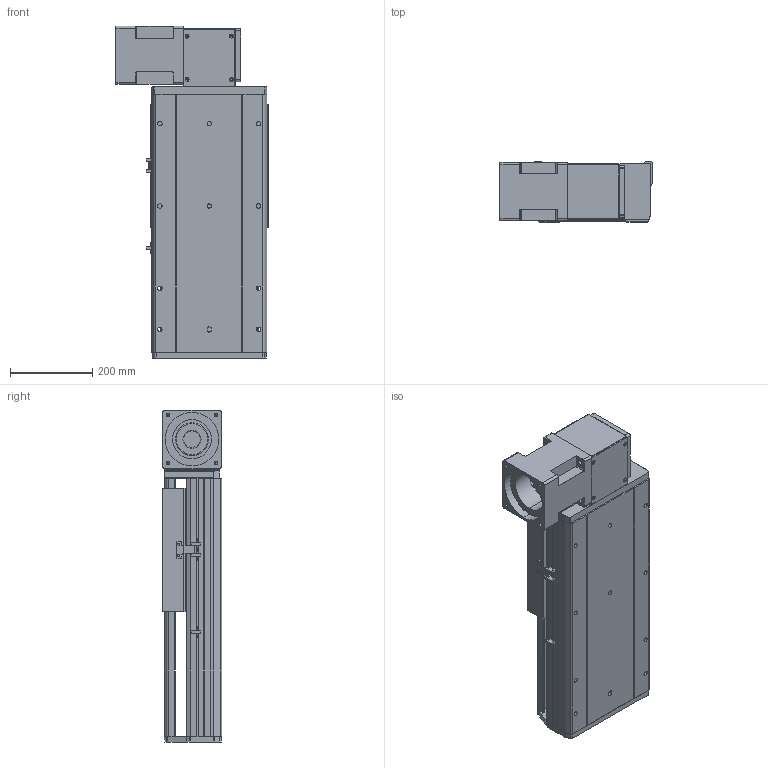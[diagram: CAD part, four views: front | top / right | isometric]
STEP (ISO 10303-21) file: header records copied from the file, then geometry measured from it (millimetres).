
FILE_DESCRIPTION (( 'STEP AP214' ), '1' );
FILE_NAME ('RTB28R-XX-200-BR-M100-XX-C4.STEP', '2025-12-22T01:05:45', ( '' ), ( '' ), 'SwSTEP 2.0', 'SolidWorks 2018', '' );
FILE_SCHEMA (( 'AUTOMOTIVE_DESIGN' ));
Length unit declared in the file: millimetre
Products named in the file (4): RTB28S-GY-011^RTB28R-XX-XX-BR-M100-XX-C4; RTB28S-GY-008^RTB28R-XX-XX-BR-M100-XX-C4; RTB28R-XX-200-BR-M100-XX-C4; RTB28S-GY-004^RTB28R-XX-XX-BR-M100-XX-C4
Assembly tree (3 placements, depth 2):
  RTB28R-XX-200-BR-M100-XX-C4
    RTB28S-GY-011^RTB28R-XX-XX-BR-M100-XX-C4
    RTB28S-GY-004^RTB28R-XX-XX-BR-M100-XX-C4
    RTB28S-GY-008^RTB28R-XX-XX-BR-M100-XX-C4
Bounding box: 370 x 145 x 807 mm (x, y, z)
Volume: 17012800.8 mm3; surface area: 1725202.2 mm2
Topology: 3 solids, 4 shells, 948 faces, 2490 edges, 1596 vertices
Faces by surface type: plane 448, cylinder 329, bspline 87, cone 80, torus 4
Entity records: 40258 total; most frequent: CARTESIAN_POINT 10645, ORIENTED_EDGE 4916, DIRECTION 4734, EDGE_CURVE 2458, AXIS2_PLACEMENT_3D 1601, VERTEX_POINT 1596, VECTOR 1532, LINE 1532
